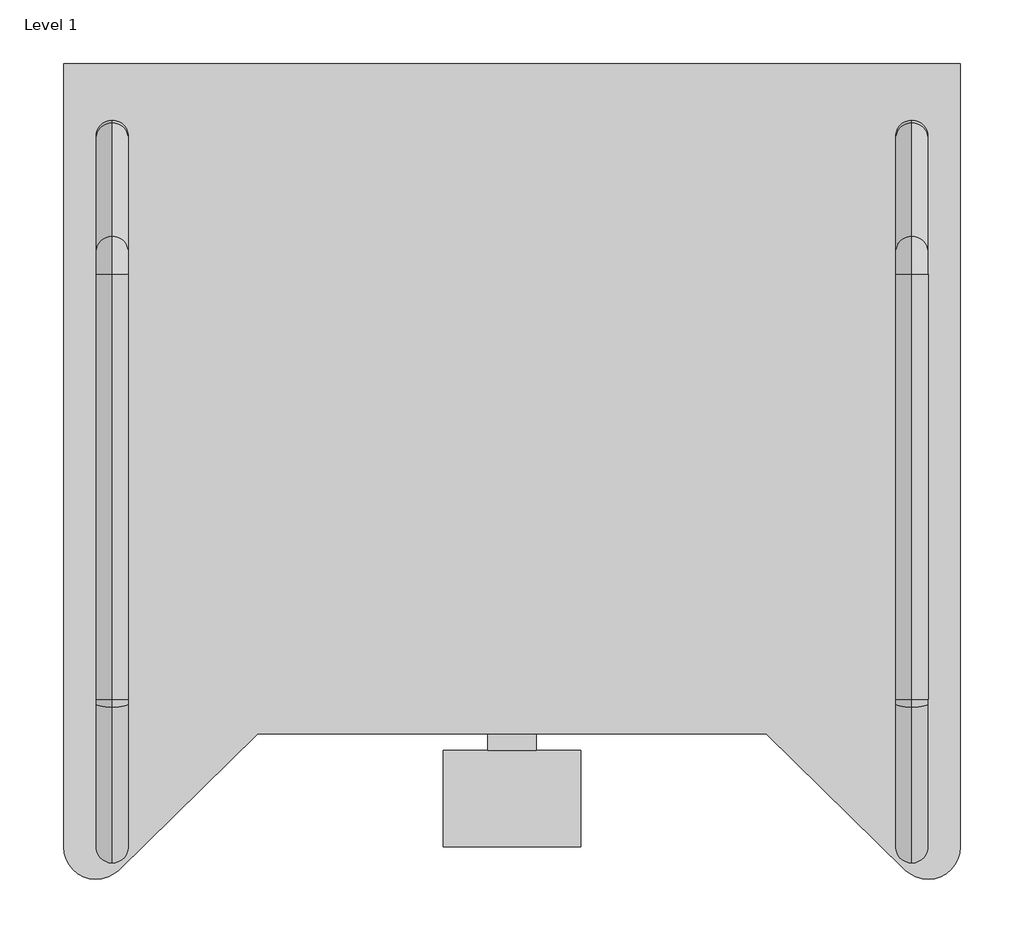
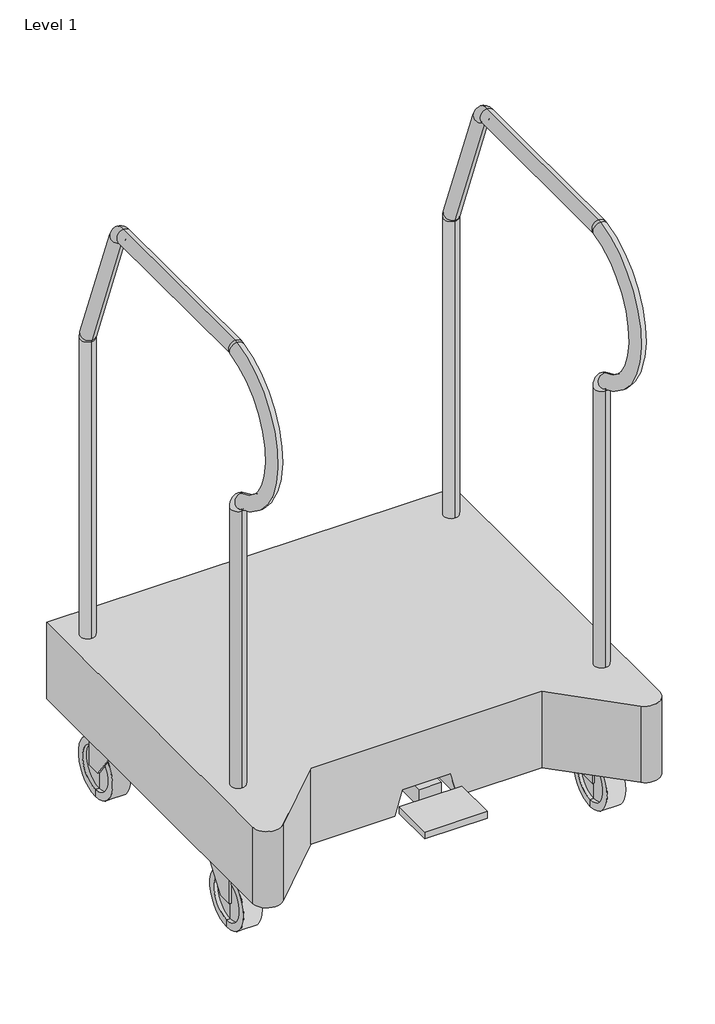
# One storey: 1 furniture element.
"""IFC4 building model written with IfcOpenShell, lengths in millimetres."""

from ifc_helpers import new_model, si_unit, origin, place, context, project, spatial, transform, mapped, element, save
from components import furniture_6c05a9e5

model = new_model("IFC4")

# Units and contexts
model_context = context("Model", 3, world=origin())
ifc_project = project(units=[si_unit("LENGTHUNIT", "METRE", prefix="MILLI")], contexts=[model_context])

# Site, building, storey
site = spatial("IfcSite", under=ifc_project)
building = spatial("IfcBuilding", under=site)
storey = spatial("IfcBuildingStorey", under=building, Name="Level 1", Elevation=0.0)

# Furniture
placement = place(None, origin())
furniture_shape = furniture_6c05a9e5(model_context)
element("IfcFurniture", 1, ObjectType="HermanMiller_CoStruc_CO342_TR3Cart : 41\"H x 25\"D x 27\"W", at=placement, inside=storey, context=model_context, shape_type="MappedRepresentation", body=[
    mapped(furniture_shape, transform((352.425, -320.675, 0.0), x_axis=(1.0, 0.0, 0.0), y_axis=(0.0, 1.0, 0.0), z_axis=(0.0, 0.0, 1.0))),
])

save(model, "model.ifc")
